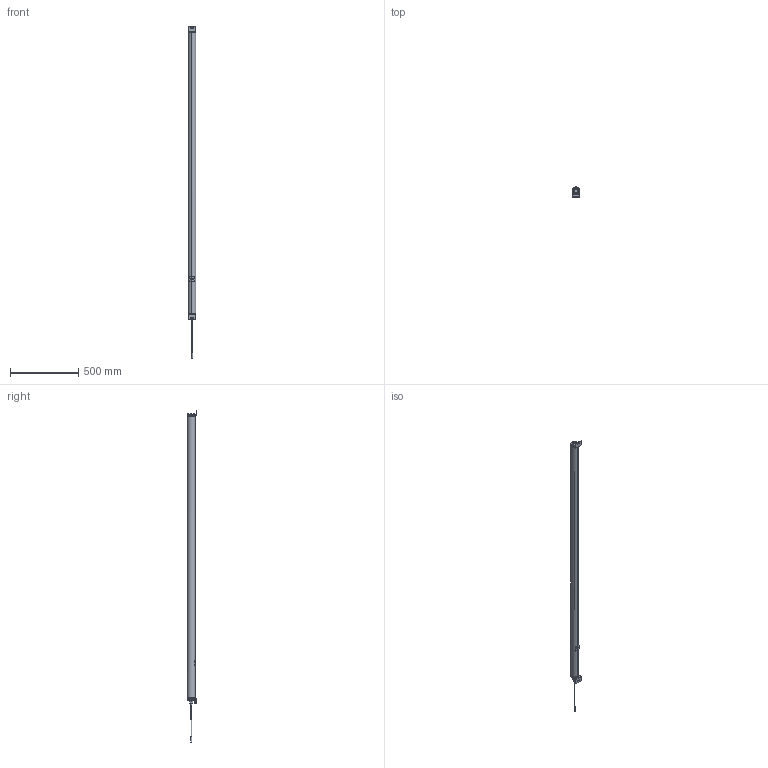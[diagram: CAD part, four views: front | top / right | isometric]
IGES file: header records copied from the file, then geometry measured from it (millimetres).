
Global section: file name: C:\ACADFILES\MG_PYLONS\CUSTOMER_FILES\MG-80-PYLON_3D_SMB_PT.igs; native system: AutoCAD-18.2s (LMS Tech) (Microsoft Windows NT Version 6.1 (x86)); preprocessor: Autodesk IGES Translator Mechanical Desktop 2011 (Feb 18 2011) from Autodesk, Inc.; date: 20140327.121416; units: inch
Bounding box: 57.29 x 69.85 x 2438.77 mm (x, y, z)
Surface area: 1553717.1 mm2 (no closed solid volume)
Topology: 0 solids, 0 shells, 1800 faces, 9329 edges, 9504 vertices
Faces by surface type: bspline 1800
